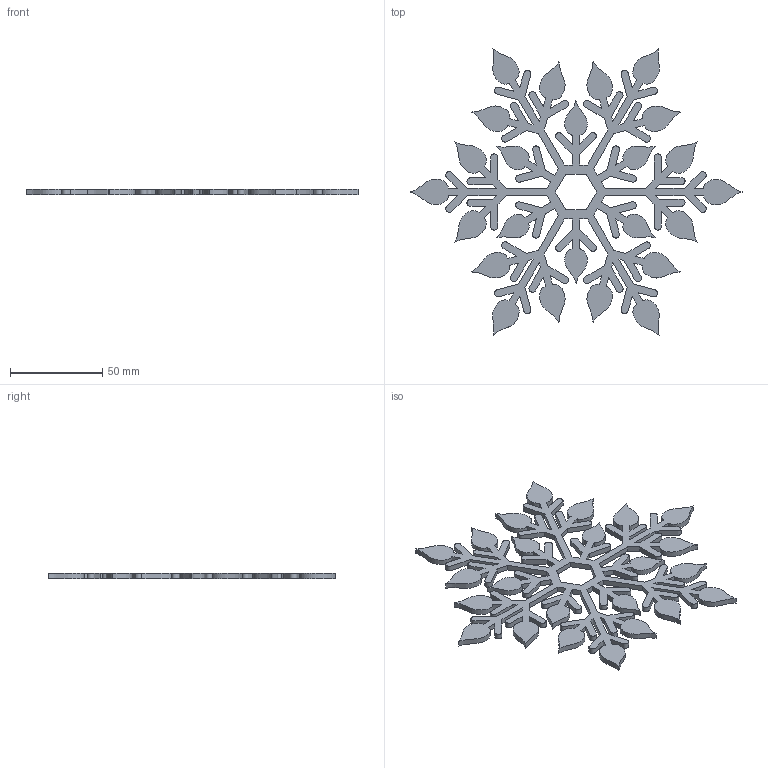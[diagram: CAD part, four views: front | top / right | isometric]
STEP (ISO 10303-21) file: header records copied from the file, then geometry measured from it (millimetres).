
FILE_DESCRIPTION(('STEP AP214'),'1');
FILE_NAME('2.stp','2026-07-01T23:18:37',(' '),(' '),'Spatial InterOp 3D',' ',' ');
FILE_SCHEMA(('AUTOMOTIVE_DESIGN { 1 0 10303 214 1 1 1 1 }'));
Length unit declared in the file: metre
Products named in the file (1): 1782947734
Bounding box: 180 x 155.88 x 3 mm (x, y, z)
Volume: 28194.1 mm3; surface area: 28629.6 mm2
Topology: 1 solids, 1 shells, 224 faces, 666 edges, 444 vertices
Faces by surface type: plane 128, bspline 96
Entity records: 15531 total; most frequent: CARTESIAN_POINT 5271, ORIENTED_EDGE 1332, STYLED_ITEM 873, PRESENTATION_STYLE_ASSIGNMENT 873, COLOUR_RGB 873, DIRECTION 732, EDGE_CURVE 666, CURVE_STYLE 648
